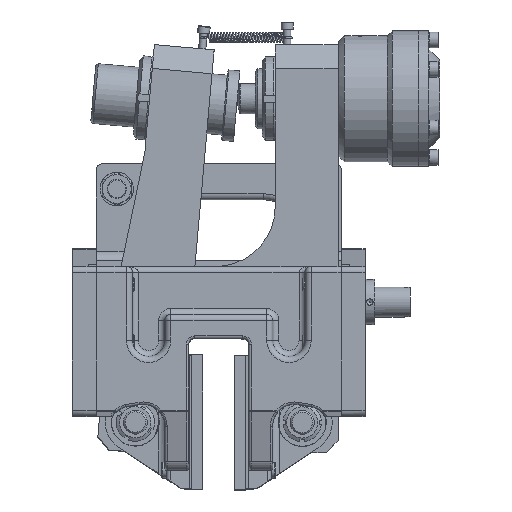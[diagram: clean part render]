
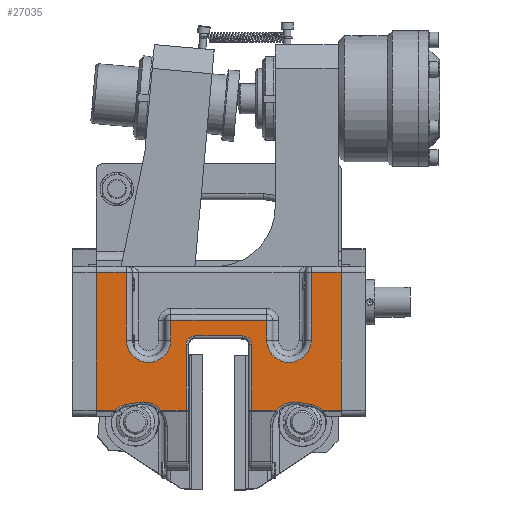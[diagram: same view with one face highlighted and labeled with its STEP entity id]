
A CAD part, top view. The second image highlights one B-rep face of the part: STEP entity #27035.
In plain terms, the highlighted planar face has unit normal (0, 0, 1).
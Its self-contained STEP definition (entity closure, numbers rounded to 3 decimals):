
#1488=PLANE('',#29068);
#2457=FACE_OUTER_BOUND('',#3998,.T.);
#3998=EDGE_LOOP('',(#19624,#19625,#19626,#19627,#19628,#19629,#19630,#19631,
#19632,#19633,#19634,#19635,#19636,#19637,#19638,#19639,#19640,#19641,#19642,
#19643,#19644,#19645,#19646,#19647,#19648,#19649));
#5862=LINE('',#48065,#7748);
#5863=LINE('',#48139,#7749);
#5865=LINE('',#48144,#7751);
#5866=LINE('',#48146,#7752);
#5867=LINE('',#48150,#7753);
#5868=LINE('',#48154,#7754);
#5869=LINE('',#48156,#7755);
#5870=LINE('',#48160,#7756);
#5871=LINE('',#48164,#7757);
#5872=LINE('',#48166,#7758);
#5873=LINE('',#48168,#7759);
#5874=LINE('',#48170,#7760);
#5875=LINE('',#48174,#7761);
#5876=LINE('',#48176,#7762);
#5877=LINE('',#48178,#7763);
#5878=LINE('',#48182,#7764);
#5879=LINE('',#48184,#7765);
#5880=LINE('',#48185,#7766);
#7748=VECTOR('',#33783,10.);
#7749=VECTOR('',#33800,10.);
#7751=VECTOR('',#33806,10.);
#7752=VECTOR('',#33807,10.);
#7753=VECTOR('',#33810,10.);
#7754=VECTOR('',#33813,10.);
#7755=VECTOR('',#33814,10.);
#7756=VECTOR('',#33817,10.);
#7757=VECTOR('',#33820,10.);
#7758=VECTOR('',#33821,10.);
#7759=VECTOR('',#33822,5.);
#7760=VECTOR('',#33823,10.);
#7761=VECTOR('',#33826,10.);
#7762=VECTOR('',#33827,10.);
#7763=VECTOR('',#33828,10.);
#7764=VECTOR('',#33831,10.);
#7765=VECTOR('',#33832,5.);
#7766=VECTOR('',#33833,10.);
#9408=CIRCLE('',#29056,20.);
#9412=CIRCLE('',#29062,18.);
#9415=CIRCLE('',#29069,7.);
#9416=CIRCLE('',#29070,7.);
#9417=CIRCLE('',#29071,20.);
#9418=CIRCLE('',#29072,18.);
#9419=CIRCLE('',#29073,18.5);
#9420=CIRCLE('',#29074,18.5);
#11335=VERTEX_POINT('',#48043);
#11337=VERTEX_POINT('',#48055);
#11339=VERTEX_POINT('',#48061);
#11341=VERTEX_POINT('',#48067);
#11347=VERTEX_POINT('',#48138);
#11348=VERTEX_POINT('',#48143);
#11349=VERTEX_POINT('',#48145);
#11350=VERTEX_POINT('',#48147);
#11351=VERTEX_POINT('',#48149);
#11352=VERTEX_POINT('',#48151);
#11353=VERTEX_POINT('',#48153);
#11354=VERTEX_POINT('',#48155);
#11355=VERTEX_POINT('',#48157);
#11356=VERTEX_POINT('',#48159);
#11357=VERTEX_POINT('',#48161);
#11358=VERTEX_POINT('',#48163);
#11359=VERTEX_POINT('',#48165);
#11360=VERTEX_POINT('',#48167);
#11361=VERTEX_POINT('',#48169);
#11362=VERTEX_POINT('',#48171);
#11363=VERTEX_POINT('',#48173);
#11364=VERTEX_POINT('',#48175);
#11365=VERTEX_POINT('',#48177);
#11366=VERTEX_POINT('',#48179);
#11367=VERTEX_POINT('',#48181);
#11368=VERTEX_POINT('',#48183);
#14404=EDGE_CURVE('',#11335,#11337,#9408,.T.);
#14407=EDGE_CURVE('',#11337,#11339,#5862,.T.);
#14410=EDGE_CURVE('',#11339,#11341,#9412,.T.);
#14417=EDGE_CURVE('',#11341,#11347,#5863,.T.);
#14420=EDGE_CURVE('',#11348,#11335,#5865,.T.);
#14421=EDGE_CURVE('',#11349,#11348,#5866,.T.);
#14422=EDGE_CURVE('',#11350,#11349,#9415,.T.);
#14423=EDGE_CURVE('',#11351,#11350,#5867,.T.);
#14424=EDGE_CURVE('',#11352,#11351,#9416,.T.);
#14425=EDGE_CURVE('',#11353,#11352,#5868,.T.);
#14426=EDGE_CURVE('',#11354,#11353,#5869,.T.);
#14427=EDGE_CURVE('',#11355,#11354,#9417,.T.);
#14428=EDGE_CURVE('',#11356,#11355,#5870,.T.);
#14429=EDGE_CURVE('',#11357,#11356,#9418,.T.);
#14430=EDGE_CURVE('',#11358,#11357,#5871,.T.);
#14431=EDGE_CURVE('',#11359,#11358,#5872,.T.);
#14432=EDGE_CURVE('',#11360,#11359,#5873,.T.);
#14433=EDGE_CURVE('',#11361,#11360,#5874,.T.);
#14434=EDGE_CURVE('',#11362,#11361,#9419,.T.);
#14435=EDGE_CURVE('',#11363,#11362,#5875,.T.);
#14436=EDGE_CURVE('',#11364,#11363,#5876,.T.);
#14437=EDGE_CURVE('',#11365,#11364,#5877,.T.);
#14438=EDGE_CURVE('',#11366,#11365,#9420,.T.);
#14439=EDGE_CURVE('',#11367,#11366,#5878,.T.);
#14440=EDGE_CURVE('',#11368,#11367,#5879,.T.);
#14441=EDGE_CURVE('',#11347,#11368,#5880,.T.);
#19624=ORIENTED_EDGE('',*,*,#14410,.F.);
#19625=ORIENTED_EDGE('',*,*,#14407,.F.);
#19626=ORIENTED_EDGE('',*,*,#14404,.F.);
#19627=ORIENTED_EDGE('',*,*,#14420,.F.);
#19628=ORIENTED_EDGE('',*,*,#14421,.F.);
#19629=ORIENTED_EDGE('',*,*,#14422,.F.);
#19630=ORIENTED_EDGE('',*,*,#14423,.F.);
#19631=ORIENTED_EDGE('',*,*,#14424,.F.);
#19632=ORIENTED_EDGE('',*,*,#14425,.F.);
#19633=ORIENTED_EDGE('',*,*,#14426,.F.);
#19634=ORIENTED_EDGE('',*,*,#14427,.F.);
#19635=ORIENTED_EDGE('',*,*,#14428,.F.);
#19636=ORIENTED_EDGE('',*,*,#14429,.F.);
#19637=ORIENTED_EDGE('',*,*,#14430,.F.);
#19638=ORIENTED_EDGE('',*,*,#14431,.F.);
#19639=ORIENTED_EDGE('',*,*,#14432,.F.);
#19640=ORIENTED_EDGE('',*,*,#14433,.F.);
#19641=ORIENTED_EDGE('',*,*,#14434,.F.);
#19642=ORIENTED_EDGE('',*,*,#14435,.F.);
#19643=ORIENTED_EDGE('',*,*,#14436,.F.);
#19644=ORIENTED_EDGE('',*,*,#14437,.F.);
#19645=ORIENTED_EDGE('',*,*,#14438,.F.);
#19646=ORIENTED_EDGE('',*,*,#14439,.F.);
#19647=ORIENTED_EDGE('',*,*,#14440,.F.);
#19648=ORIENTED_EDGE('',*,*,#14441,.F.);
#19649=ORIENTED_EDGE('',*,*,#14417,.F.);
#27035=ADVANCED_FACE('',(#2457),#1488,.T.);
#29056=AXIS2_PLACEMENT_3D('',#48059,#33776,#33777);
#29062=AXIS2_PLACEMENT_3D('',#48071,#33790,#33791);
#29068=AXIS2_PLACEMENT_3D('',#48142,#33804,#33805);
#29069=AXIS2_PLACEMENT_3D('',#48148,#33808,#33809);
#29070=AXIS2_PLACEMENT_3D('',#48152,#33811,#33812);
#29071=AXIS2_PLACEMENT_3D('',#48158,#33815,#33816);
#29072=AXIS2_PLACEMENT_3D('',#48162,#33818,#33819);
#29073=AXIS2_PLACEMENT_3D('',#48172,#33824,#33825);
#29074=AXIS2_PLACEMENT_3D('',#48180,#33829,#33830);
#33776=DIRECTION('center_axis',(0.,0.,
1.));
#33777=DIRECTION('ref_axis',(0.29,0.957,0.));
#33783=DIRECTION('',(-0.985,-0.174,0.));
#33790=DIRECTION('center_axis',(0.,0.,
1.));
#33791=DIRECTION('ref_axis',(-0.388,0.922,0.));
#33800=DIRECTION('',(-1.,0.,0.));
#33804=DIRECTION('center_axis',(0.,0.,
1.));
#33805=DIRECTION('ref_axis',(1.,0.,0.));
#33806=DIRECTION('',(-1.,0.,0.));
#33807=DIRECTION('',(0.,-1.,0.));
#33808=DIRECTION('center_axis',(0.,0.,
1.));
#33809=DIRECTION('ref_axis',(-0.707,0.707,0.));
#33810=DIRECTION('',(-1.,0.,0.));
#33811=DIRECTION('center_axis',(0.,0.,
1.));
#33812=DIRECTION('ref_axis',(0.707,0.707,0.));
#33813=DIRECTION('',(0.,1.,0.));
#33814=DIRECTION('',(-1.,0.,0.));
#33815=DIRECTION('center_axis',(0.,0.,
1.));
#33816=DIRECTION('ref_axis',(-0.29,0.957,0.));
#33817=DIRECTION('',(-0.985,0.174,0.));
#33818=DIRECTION('center_axis',(0.,0.,
1.));
#33819=DIRECTION('ref_axis',(0.388,0.922,0.));
#33820=DIRECTION('',(-1.,0.,0.));
#33821=DIRECTION('',(0.,-1.,0.));
#33822=DIRECTION('',(1.,0.,0.));
#33823=DIRECTION('',(0.,1.,0.));
#33824=DIRECTION('center_axis',(0.,0.,
1.));
#33825=DIRECTION('ref_axis',(0.,-1.,0.));
#33826=DIRECTION('',(0.,-1.,0.));
#33827=DIRECTION('',(1.,0.,0.));
#33828=DIRECTION('',(0.,1.,0.));
#33829=DIRECTION('center_axis',(0.,0.,
1.));
#33830=DIRECTION('ref_axis',(0.,-1.,0.));
#33831=DIRECTION('',(0.,-1.,0.));
#33832=DIRECTION('',(1.,0.,0.));
#33833=DIRECTION('',(0.,1.,0.));
#48043=CARTESIAN_POINT('',(-47.801,50.,285.));
#48055=CARTESIAN_POINT('',(-66.478,56.695,285.));
#48059=CARTESIAN_POINT('Origin',(-63.,37.,285.));
#48061=CARTESIAN_POINT('',(-77.63,54.726,285.));
#48065=CARTESIAN_POINT('',(-36.958,61.909,285.));
#48067=CARTESIAN_POINT('',(-86.95,50.,285.));
#48071=CARTESIAN_POINT('Origin',(-74.5,37.,285.));
#48138=CARTESIAN_POINT('',(-102.,50.,285.));
#48139=CARTESIAN_POINT('',(-102.,50.,285.));
#48142=CARTESIAN_POINT('Origin',(0.,90.129,
285.));
#48143=CARTESIAN_POINT('',(-27.,50.,285.));
#48144=CARTESIAN_POINT('',(-102.,50.,285.));
#48145=CARTESIAN_POINT('',(-27.,105.,285.));
#48146=CARTESIAN_POINT('',(-27.,45.065,285.));
#48147=CARTESIAN_POINT('',(-20.,112.,285.));
#48148=CARTESIAN_POINT('Origin',(-20.,105.,285.));
#48149=CARTESIAN_POINT('',(20.,112.,285.));
#48150=CARTESIAN_POINT('',(-10.,112.,285.));
#48151=CARTESIAN_POINT('',(27.,105.,285.));
#48152=CARTESIAN_POINT('Origin',(20.,105.,285.));
#48153=CARTESIAN_POINT('',(27.,50.,285.));
#48154=CARTESIAN_POINT('',(27.,97.565,285.));
#48155=CARTESIAN_POINT('',(47.801,50.,285.));
#48156=CARTESIAN_POINT('',(-102.,50.,285.));
#48157=CARTESIAN_POINT('',(66.478,56.695,285.));
#48158=CARTESIAN_POINT('Origin',(63.,37.,285.));
#48159=CARTESIAN_POINT('',(77.63,54.726,285.));
#48160=CARTESIAN_POINT('',(31.381,62.893,285.));
#48161=CARTESIAN_POINT('',(86.95,50.,285.));
#48162=CARTESIAN_POINT('Origin',(74.5,37.,285.));
#48163=CARTESIAN_POINT('',(102.,50.,285.));
#48164=CARTESIAN_POINT('',(-102.,50.,285.));
#48165=CARTESIAN_POINT('',(102.,165.,285.));
#48166=CARTESIAN_POINT('',(102.,165.,285.));
#48167=CARTESIAN_POINT('',(77.,165.,285.));
#48168=CARTESIAN_POINT('',(0.,165.,285.));
#48169=CARTESIAN_POINT('',(77.,108.5,285.));
#48170=CARTESIAN_POINT('',(77.,127.565,285.));
#48171=CARTESIAN_POINT('',(40.,108.5,285.));
#48172=CARTESIAN_POINT('Origin',(58.5,108.5,285.));
#48173=CARTESIAN_POINT('',(40.,125.,285.));
#48174=CARTESIAN_POINT('',(40.,99.315,285.));
#48175=CARTESIAN_POINT('',(-40.,125.,285.));
#48176=CARTESIAN_POINT('',(20.,125.,285.));
#48177=CARTESIAN_POINT('',(-40.,108.5,285.));
#48178=CARTESIAN_POINT('',(-40.,107.565,285.));
#48179=CARTESIAN_POINT('',(-77.,108.5,285.));
#48180=CARTESIAN_POINT('Origin',(-58.5,108.5,285.));
#48181=CARTESIAN_POINT('',(-77.,165.,285.));
#48182=CARTESIAN_POINT('',(-77.,99.315,285.));
#48183=CARTESIAN_POINT('',(-102.,165.,285.));
#48184=CARTESIAN_POINT('',(102.,165.,285.));
#48185=CARTESIAN_POINT('',(-102.,165.,285.));
